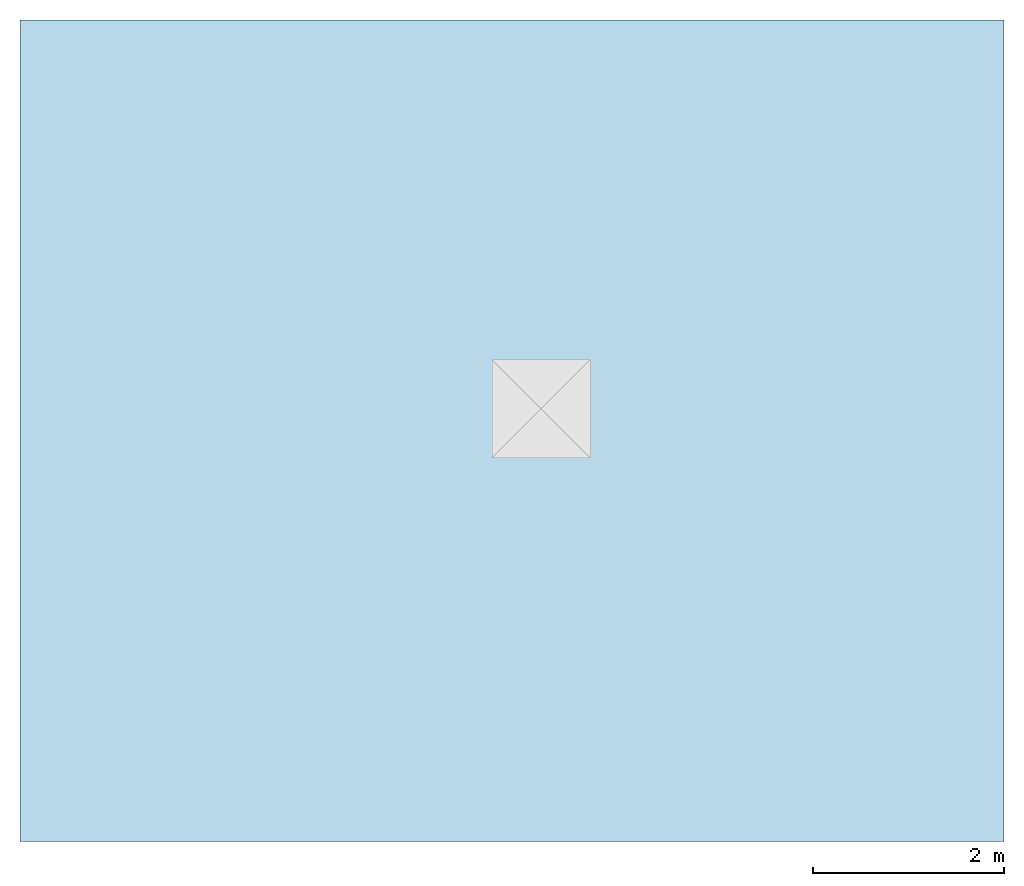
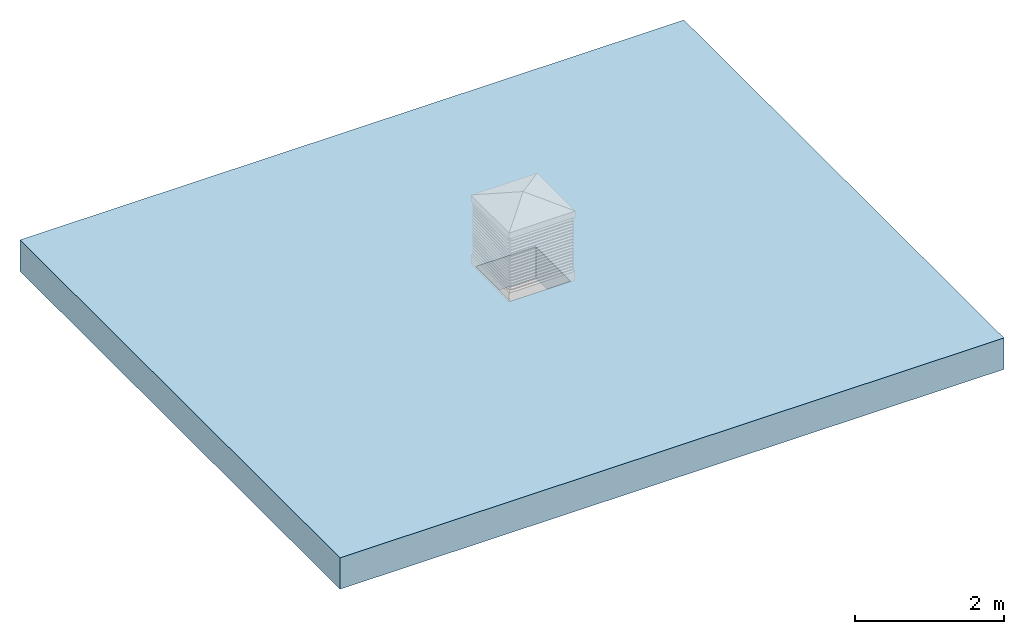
# One storey, incomplete: 1 slab, 1 opening, 1 element without a shape of its own.
"""IFC2X3 building model written with IfcOpenShell, lengths in millimetres."""

from ifc_helpers import new_model, entity, si_unit, converted_unit, derived_unit, direction, frame, origin, origin_2d_with_axis, place, context, subcontext, project, spatial, rectangle, extrude, material, layer, layer_set, type_object, element, aggregate, save


model = new_model("IFC2X3")

# Units and contexts
model_context = context("Model", 3, precision=0.01, world=origin(), true_north=direction((6.123031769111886e-17, 1.0)))
body_context = subcontext(model_context, "Body", "Model", "MODEL_VIEW")
ifc_project = project(units=[si_unit("LENGTHUNIT", "METRE", prefix="MILLI"), si_unit("AREAUNIT", "SQUARE_METRE"), si_unit("VOLUMEUNIT", "CUBIC_METRE"), converted_unit("PLANEANGLEUNIT", "DEGREE", entity("IfcPlaneAngleMeasure", 0.017453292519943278), si_unit("PLANEANGLEUNIT", "RADIAN"), dimensions=[0, 0, 0, 0, 0, 0, 0]), si_unit("MASSUNIT", "GRAM", prefix="KILO"), derived_unit("MASSDENSITYUNIT", [(si_unit("MASSUNIT", "GRAM", prefix="KILO"), 1), (si_unit("LENGTHUNIT", "METRE"), -3)]), derived_unit("IONCONCENTRATIONUNIT", [(si_unit("MASSUNIT", "GRAM", prefix="KILO"), 1), (si_unit("LENGTHUNIT", "METRE"), -3)]), derived_unit("MOMENTOFINERTIAUNIT", [(si_unit("LENGTHUNIT", "METRE"), 4)]), si_unit("TIMEUNIT", "SECOND"), si_unit("FREQUENCYUNIT", "HERTZ"), si_unit("THERMODYNAMICTEMPERATUREUNIT", "DEGREE_CELSIUS"), derived_unit("THERMALTRANSMITTANCEUNIT", [(si_unit("MASSUNIT", "GRAM", prefix="KILO"), 1), (si_unit("THERMODYNAMICTEMPERATUREUNIT", "KELVIN"), -1), (si_unit("TIMEUNIT", "SECOND"), -3)]), derived_unit("THERMALCONDUCTANCEUNIT", [(si_unit("MASSUNIT", "GRAM", prefix="KILO"), 1), (si_unit("THERMODYNAMICTEMPERATUREUNIT", "KELVIN"), -1), (si_unit("TIMEUNIT", "SECOND"), -3), (si_unit("LENGTHUNIT", "METRE"), 1)]), derived_unit("VOLUMETRICFLOWRATEUNIT", [(si_unit("LENGTHUNIT", "METRE", prefix="DECI"), 3), (si_unit("TIMEUNIT", "SECOND"), -1)]), derived_unit("MASSFLOWRATEUNIT", [(si_unit("MASSUNIT", "GRAM", prefix="KILO"), 1), (si_unit("TIMEUNIT", "SECOND"), -1)]), derived_unit("ROTATIONALFREQUENCYUNIT", [(si_unit("TIMEUNIT", "SECOND"), -1)]), si_unit("ELECTRICCURRENTUNIT", "AMPERE"), si_unit("ELECTRICVOLTAGEUNIT", "VOLT"), si_unit("POWERUNIT", "WATT"), si_unit("FORCEUNIT", "NEWTON", prefix="KILO"), si_unit("ILLUMINANCEUNIT", "LUX"), si_unit("LUMINOUSFLUXUNIT", "LUMEN"), si_unit("LUMINOUSINTENSITYUNIT", "CANDELA"), si_unit("ENERGYUNIT", "JOULE"), derived_unit("USERDEFINED", [(si_unit("MASSUNIT", "GRAM", prefix="KILO"), -1), (si_unit("LENGTHUNIT", "METRE"), -2), (si_unit("TIMEUNIT", "SECOND"), 3), (si_unit("LUMINOUSFLUXUNIT", "LUMEN"), 1)]), derived_unit("USERDEFINED", [(si_unit("MASSUNIT", "GRAM", prefix="KILO"), 1), (si_unit("TIMEUNIT", "SECOND"), -3), (si_unit("LENGTHUNIT", "METRE"), 3), (si_unit("ELECTRICCURRENTUNIT", "AMPERE"), -2)]), derived_unit("SOUNDPOWERUNIT", [(si_unit("MASSUNIT", "GRAM", prefix="KILO"), 1), (si_unit("TIMEUNIT", "SECOND"), -3), (si_unit("LENGTHUNIT", "METRE"), 2)]), derived_unit("SOUNDPRESSUREUNIT", [(si_unit("MASSUNIT", "GRAM", prefix="KILO"), 1), (si_unit("LENGTHUNIT", "METRE"), -1), (si_unit("TIMEUNIT", "SECOND"), -2)]), derived_unit("LINEARVELOCITYUNIT", [(si_unit("LENGTHUNIT", "METRE"), 1), (si_unit("TIMEUNIT", "SECOND"), -1)]), si_unit("PRESSUREUNIT", "PASCAL"), derived_unit("USERDEFINED", [(si_unit("MASSUNIT", "GRAM", prefix="KILO"), 1), (si_unit("LENGTHUNIT", "METRE"), -2), (si_unit("TIMEUNIT", "SECOND"), -2)]), derived_unit("LINEARFORCEUNIT", [(si_unit("MASSUNIT", "GRAM", prefix="KILO"), 1), (si_unit("TIMEUNIT", "SECOND"), -2)]), derived_unit("PLANARFORCEUNIT", [(si_unit("MASSUNIT", "GRAM", prefix="KILO"), 1), (si_unit("LENGTHUNIT", "METRE"), -1), (si_unit("TIMEUNIT", "SECOND"), -2)]), derived_unit("SPECIFICHEATCAPACITYUNIT", [(si_unit("THERMODYNAMICTEMPERATUREUNIT", "KELVIN"), -1), (si_unit("LENGTHUNIT", "METRE"), 2), (si_unit("TIMEUNIT", "SECOND"), -2)]), derived_unit("HEATFLUXDENSITYUNIT", [(si_unit("MASSUNIT", "GRAM", prefix="KILO"), 1), (si_unit("TIMEUNIT", "SECOND"), -3)]), derived_unit("HEATINGVALUEUNIT", [(si_unit("LENGTHUNIT", "METRE"), 2), (si_unit("TIMEUNIT", "SECOND"), -2)]), derived_unit("VAPORPERMEABILITYUNIT", [(si_unit("LENGTHUNIT", "METRE"), -1), (si_unit("TIMEUNIT", "SECOND"), 1)]), derived_unit("DYNAMICVISCOSITYUNIT", [(si_unit("MASSUNIT", "GRAM", prefix="KILO"), 1), (si_unit("TIMEUNIT", "SECOND"), -1), (si_unit("LENGTHUNIT", "METRE"), -1)]), derived_unit("THERMALEXPANSIONCOEFFICIENTUNIT", [(si_unit("THERMODYNAMICTEMPERATUREUNIT", "KELVIN"), -1)]), derived_unit("MODULUSOFELASTICITYUNIT", [(si_unit("MASSUNIT", "GRAM", prefix="KILO"), 1), (si_unit("LENGTHUNIT", "METRE"), -1), (si_unit("TIMEUNIT", "SECOND"), -2)]), derived_unit("ISOTHERMALMOISTURECAPACITYUNIT", [(si_unit("MASSUNIT", "GRAM", prefix="KILO"), -1), (si_unit("LENGTHUNIT", "METRE"), 3)]), derived_unit("MOISTUREDIFFUSIVITYUNIT", [(si_unit("TIMEUNIT", "SECOND"), -1), (si_unit("LENGTHUNIT", "METRE"), 2)]), derived_unit("MASSPERLENGTHUNIT", [(si_unit("MASSUNIT", "GRAM", prefix="KILO"), 1), (si_unit("LENGTHUNIT", "METRE"), -1)]), derived_unit("THERMALRESISTANCEUNIT", [(si_unit("MASSUNIT", "GRAM", prefix="KILO"), -1), (si_unit("TIMEUNIT", "SECOND"), 3), (si_unit("THERMODYNAMICTEMPERATUREUNIT", "KELVIN"), 1)]), derived_unit("ACCELERATIONUNIT", [(si_unit("LENGTHUNIT", "METRE"), 1), (si_unit("TIMEUNIT", "SECOND"), -2)]), derived_unit("ANGULARVELOCITYUNIT", [(si_unit("TIMEUNIT", "SECOND"), -1), (si_unit("PLANEANGLEUNIT", "RADIAN"), 1)]), derived_unit("LINEARSTIFFNESSUNIT", [(si_unit("MASSUNIT", "GRAM", prefix="KILO"), 1), (si_unit("TIMEUNIT", "SECOND"), -2)]), derived_unit("WARPINGCONSTANTUNIT", [(si_unit("LENGTHUNIT", "METRE"), 6)]), derived_unit("LINEARMOMENTUNIT", [(si_unit("MASSUNIT", "GRAM", prefix="KILO"), 1), (si_unit("LENGTHUNIT", "METRE"), 1), (si_unit("TIMEUNIT", "SECOND"), -2)]), derived_unit("TORQUEUNIT", [(si_unit("MASSUNIT", "GRAM", prefix="KILO"), 1), (si_unit("LENGTHUNIT", "METRE"), 2), (si_unit("TIMEUNIT", "SECOND"), -2)])], contexts=[model_context])

# Site, building, storey
site_placement = place(None, origin())
site = spatial("IfcSite", under=ifc_project, at=site_placement, Name="Default", CompositionType="ELEMENT")
building_placement = place(site_placement, origin())
building = spatial("IfcBuilding", under=site, at=building_placement, CompositionType="ELEMENT")
storey_placement = place(building_placement, origin())
storey = spatial("IfcBuildingStorey", under=building, at=storey_placement, Name="Level 0", CompositionType="ELEMENT", Elevation=0.0)

# Roof, slab, opening
ifc_material_1 = material(Name="Roofing, Standing Seam")
ifc_layer_1 = layer(ifc_material_1, 50.0)
ifc_material_2 = material(Name="Rigid insulation")
ifc_layer_2 = layer(ifc_material_2, 220.0)
ifc_material_3 = material(Name="Metal Panel")
ifc_layer_3 = layer(ifc_material_3, 20.0)
ifc_material_4 = material(Name="Steel Purlins")
ifc_layer_4 = layer(ifc_material_4, 225.00000000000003)
ifc_layer_set = layer_set([ifc_layer_1, ifc_layer_2, ifc_layer_3, ifc_layer_4], Name="Basic Roof:Roof_Pitched-50SS-220Ins-20MPan-225Purl")
roof_placement = place(storey_placement, origin())
roof = element("IfcRoof", 1, at=roof_placement, inside=storey, material=ifc_layer_set, Name="Basic Roof:Roof_Pitched-50SS-220Ins-20MPan-225Purl", ObjectType="Basic Roof:Roof_Pitched-50SS-220Ins-20MPan-225Purl", ShapeType="NOTDEFINED")
slab_type = type_object("IfcSlabType", Name="Basic Roof:Roof_Pitched-50SS-220Ins-20MPan-225Purl", PredefinedType="ROOF")
slab_placement = place(storey_placement, origin())
slab = element("IfcSlab", 2, at=slab_placement, type_object=slab_type, Name="Basic Roof:Roof_Pitched-50SS-220Ins-20MPan-225Purl:1", ObjectType="Basic Roof:Roof_Pitched-50SS-220Ins-20MPan-225Purl", PredefinedType="ROOF", context=body_context, shape_type="SweptSolid", body=[
    extrude(rectangle(XDim=8600.0, YDim=10300.000000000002, at=origin_2d_with_axis()), frame((-307.20574351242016, -230.24429292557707, 0.0), z_axis=(0.0, 0.0, 1.0), x_axis=(0.0, -1.0, 0.0)), (0.0, 0.0, 1.0), 515.0),
])
opening_placement = place(storey_placement, origin())
element("IfcOpeningElement", 3, at=opening_placement, cuts=slab, Name="Basic Roof:Roof_Pitched-50SS-220Ins-20MPan-225Purl:1", ObjectType="Opening", context=body_context, shape_type="SweptSolid", body=[
    extrude(rectangle(XDim=933.999999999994, YDim=933.9999999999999, at=origin_2d_with_axis()), frame((-1.58750000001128, 0.0, 0.0)), (0.0, 0.0, 1.0), 515.0),
])
aggregate(roof, [slab])

save(model, "model.ifc")
